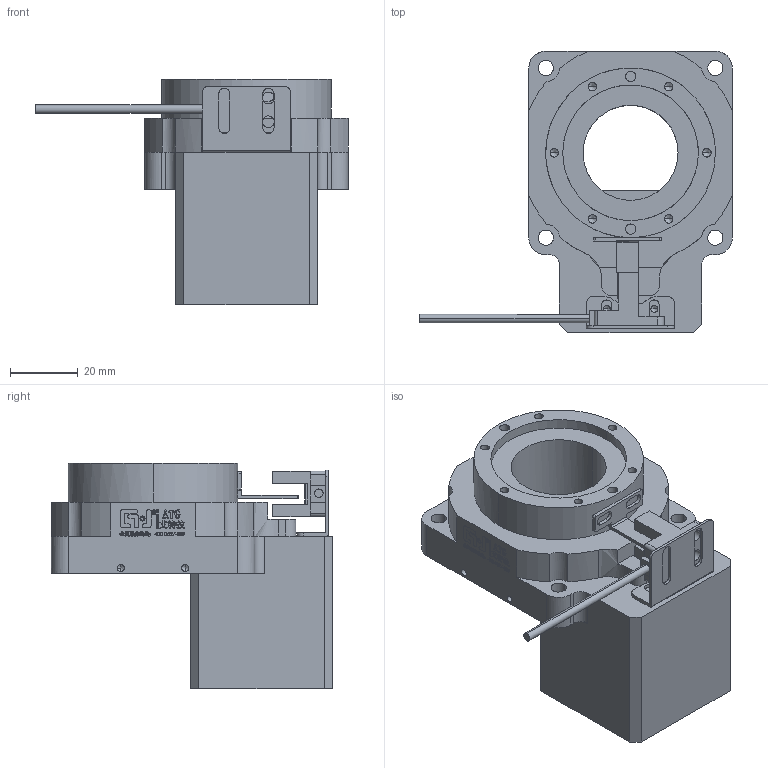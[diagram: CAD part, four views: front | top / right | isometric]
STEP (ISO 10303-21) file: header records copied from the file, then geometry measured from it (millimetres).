
FILE_DESCRIPTION (( 'STEP AP214' ), '1' );
FILE_NAME ('GT60-C-5-8-30-45-M3-2.STEP', '2024-07-01T06:20:22', ( '' ), ( '' ), 'SwSTEP 2.0', 'SolidWorks 2021', '' );
FILE_SCHEMA (( 'AUTOMOTIVE_DESIGN' ));
Length unit declared in the file: millimetre
Products named in the file (1): GT60-C-5-8-30-45-M3-2
Bounding box: 92.19 x 83 x 66.5 mm (x, y, z)
Volume: 139132.9 mm3; surface area: 29589.5 mm2
Topology: 6 solids, 10 shells, 1149 faces, 3122 edges, 2041 vertices
Faces by surface type: plane 647, bspline 465, cylinder 29, cone 8
Entity records: 52931 total; most frequent: CARTESIAN_POINT 25035, ORIENTED_EDGE 6150, DIRECTION 3200, EDGE_CURVE 3075, VERTEX_POINT 2041, LINE 1714, VECTOR 1714, EDGE_LOOP 1270
